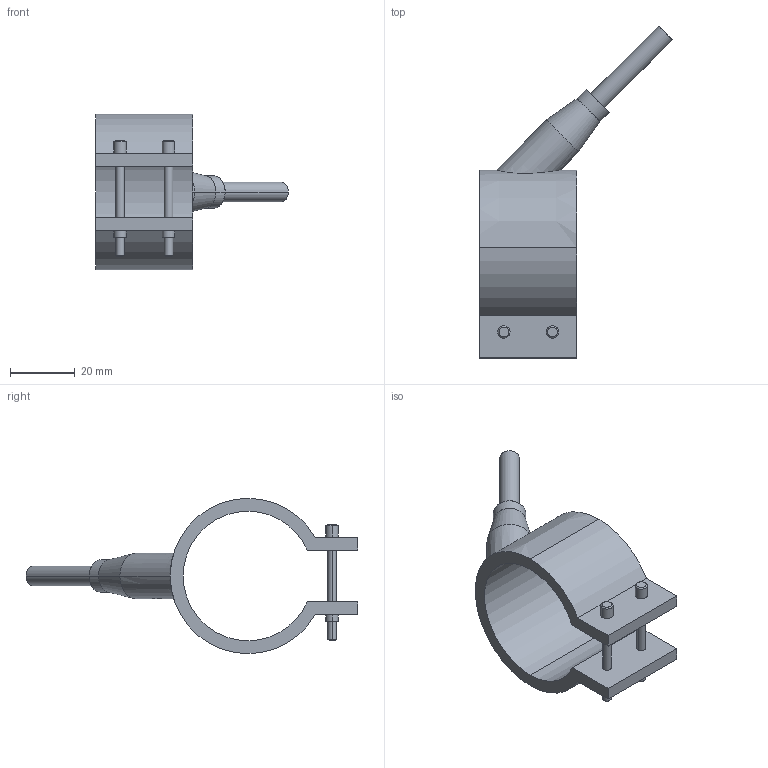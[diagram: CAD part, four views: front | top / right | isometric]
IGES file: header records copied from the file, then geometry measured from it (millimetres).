
Start section: START RECORD GO HERE.
Global section: file name: 29040030.igs; native system: DASSAULT SYSTEMES CATIA V5 R20 - www.3ds.com; preprocessor: CATIA Version 5 Release 20 ; author: Utente; organization: NB04-ASUS; date: 20210327.095746; units: millimetre
Bounding box: 59.55 x 102.55 x 48 mm (x, y, z)
Surface area: 12338.5 mm2 (no closed solid volume)
Topology: 0 solids, 0 shells, 54 faces, 248 edges, 248 vertices
Faces by surface type: revolution 38, plane 16
